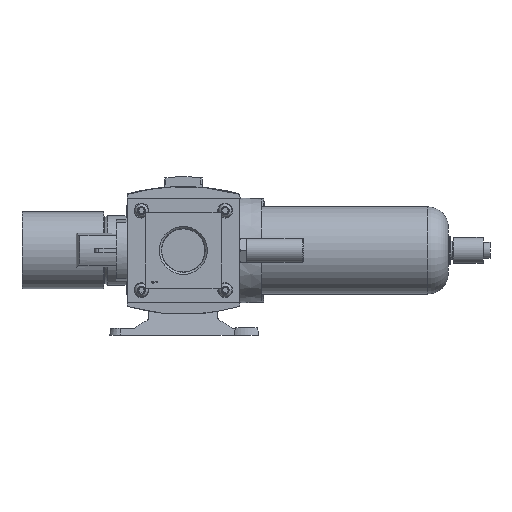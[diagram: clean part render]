
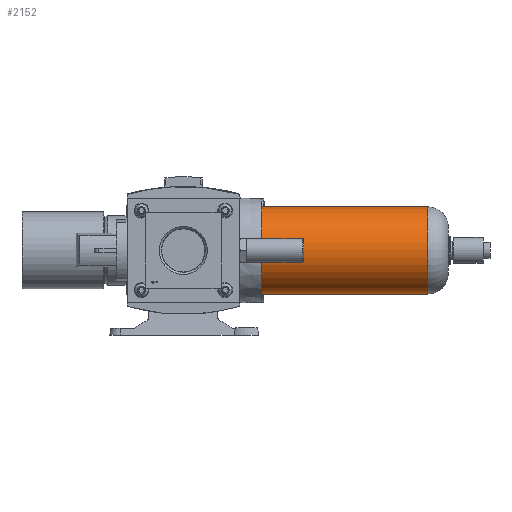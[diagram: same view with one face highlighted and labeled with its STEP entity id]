
A CAD part, left-side view. The second image highlights one B-rep face of the part: STEP entity #2152.
In plain terms, the highlighted cylindrical face has radius 31.75 mm (diameter 63.5 mm), a full revolution.
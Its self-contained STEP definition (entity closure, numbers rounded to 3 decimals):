
#2152 = ADVANCED_FACE( '', ( #4844, #4845 ), #4846, .T. );
#4844 = FACE_OUTER_BOUND( '', #8406, .T. );
#4845 = FACE_OUTER_BOUND( '', #8407, .T. );
#4846 = CYLINDRICAL_SURFACE( '', #8408, 31.75 );
#8406 = EDGE_LOOP( '', ( #13507 ) );
#8407 = EDGE_LOOP( '', ( #13508 ) );
#8408 = AXIS2_PLACEMENT_3D( '', #13509, #13510, #13511 );
#13507 = ORIENTED_EDGE( '', *, *, #21788, .F. );
#13508 = ORIENTED_EDGE( '', *, *, #21789, .T. );
#13509 = CARTESIAN_POINT( '', ( 0., -136.7, 0. ) );
#13510 = DIRECTION( '', ( 0., 1., 0. ) );
#13511 = DIRECTION( '', ( 0., 0., -1. ) );
#21788 = EDGE_CURVE( '', #26338, #26338, #26339, .T. );
#21789 = EDGE_CURVE( '', #26340, #26340, #26341, .T. );
#26338 = VERTEX_POINT( '', #32649 );
#26339 = CIRCLE( '', #32650, 31.75 );
#26340 = VERTEX_POINT( '', #32651 );
#26341 = CIRCLE( '', #32652, 31.75 );
#32649 = CARTESIAN_POINT( '', ( 0., -121.1, -31.75 ) );
#32650 = AXIS2_PLACEMENT_3D( '', #38776, #38777, #38778 );
#32651 = CARTESIAN_POINT( '', ( 0., 0., -31.75 ) );
#32652 = AXIS2_PLACEMENT_3D( '', #38779, #38780, #38781 );
#38776 = CARTESIAN_POINT( '', ( 0., -121.1, 0. ) );
#38777 = DIRECTION( '', ( 0., -1., 0. ) );
#38778 = DIRECTION( '', ( 0., 0., -1. ) );
#38779 = CARTESIAN_POINT( '', ( 0., 0., 0. ) );
#38780 = DIRECTION( '', ( 0., -1., 0. ) );
#38781 = DIRECTION( '', ( 0., 0., -1. ) );
